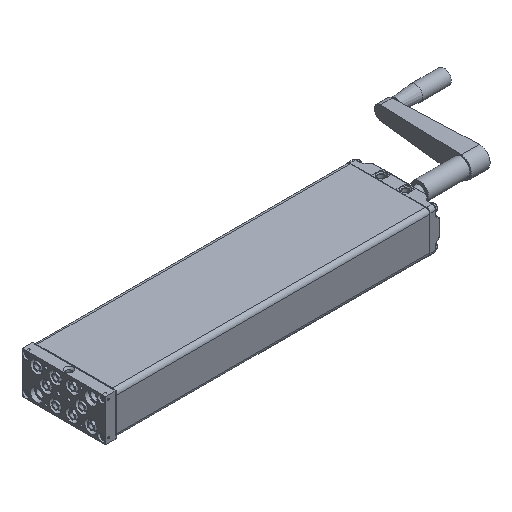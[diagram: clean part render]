
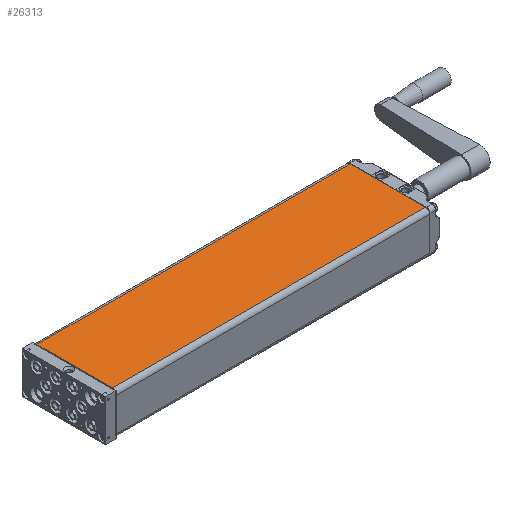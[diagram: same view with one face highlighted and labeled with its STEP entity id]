
A CAD part, isometric view. The second image highlights one B-rep face of the part: STEP entity #26313.
In plain terms, the highlighted planar face has unit normal (0, 0, 1).
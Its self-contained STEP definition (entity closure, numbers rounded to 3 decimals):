
#2476=LINE('',#63107,#3525);
#2477=LINE('',#63110,#3526);
#2478=LINE('',#63112,#3527);
#2479=LINE('',#63114,#3528);
#3525=VECTOR('',#32529,1000.);
#3526=VECTOR('',#32530,1000.);
#3527=VECTOR('',#32531,1000.);
#3528=VECTOR('',#32532,1000.);
#3941=PLANE('',#28122);
#8795=ORIENTED_EDGE('',*,*,#11795,.T.);
#8796=ORIENTED_EDGE('',*,*,#11796,.T.);
#8797=ORIENTED_EDGE('',*,*,#11797,.T.);
#8798=ORIENTED_EDGE('',*,*,#11798,.T.);
#11795=EDGE_CURVE('',#13555,#13556,#2476,.F.);
#11796=EDGE_CURVE('',#13556,#13557,#2477,.T.);
#11797=EDGE_CURVE('',#13557,#13558,#2478,.T.);
#11798=EDGE_CURVE('',#13558,#13555,#2479,.F.);
#13555=VERTEX_POINT('',#63108);
#13556=VERTEX_POINT('',#63109);
#13557=VERTEX_POINT('',#63111);
#13558=VERTEX_POINT('',#63113);
#15753=EDGE_LOOP('',(#8795,#8796,#8797,#8798));
#17272=FACE_BOUND('',#15753,.T.);
#26313=ADVANCED_FACE('',(#17272),#3941,.T.);
#28122=AXIS2_PLACEMENT_3D('',#63106,#32527,#32528);
#32527=DIRECTION('',(0.,0.,1.));
#32528=DIRECTION('',(1.,0.,0.));
#32529=DIRECTION('',(0.,-1.,0.));
#32530=DIRECTION('',(-1.,0.,0.));
#32531=DIRECTION('',(0.,-1.,0.));
#32532=DIRECTION('',(-1.,0.,0.));
#63106=CARTESIAN_POINT('',(60.,450.5,30.));
#63107=CARTESIAN_POINT('',(54.,450.5,30.));
#63108=CARTESIAN_POINT('',(54.,0.5,30.));
#63109=CARTESIAN_POINT('',(54.,450.,30.));
#63110=CARTESIAN_POINT('',(60.,450.,30.));
#63111=CARTESIAN_POINT('',(-54.,450.,30.));
#63112=CARTESIAN_POINT('',(-54.,450.5,30.));
#63113=CARTESIAN_POINT('',(-54.,0.5,30.));
#63114=CARTESIAN_POINT('',(54.,0.5,30.));
